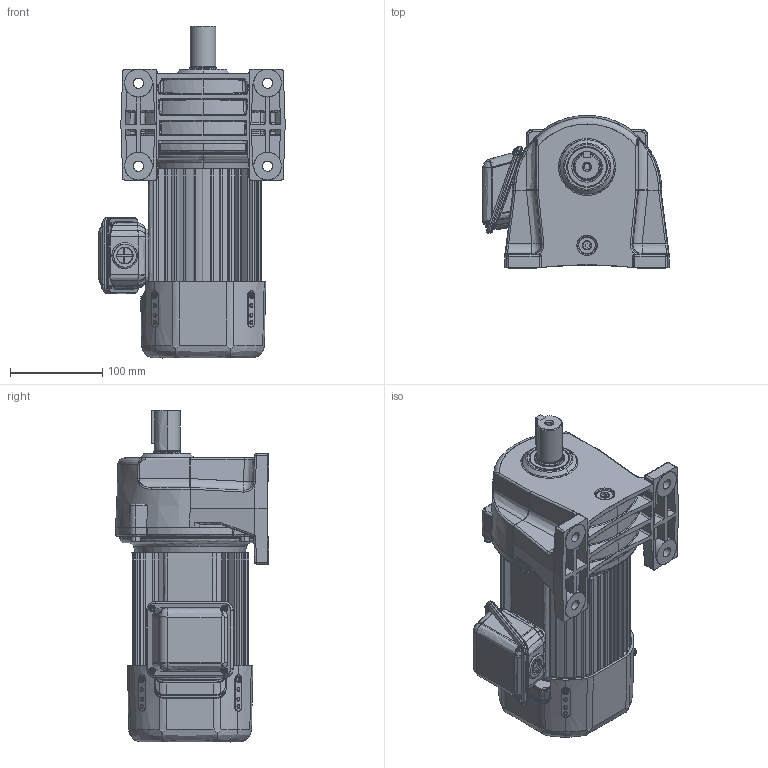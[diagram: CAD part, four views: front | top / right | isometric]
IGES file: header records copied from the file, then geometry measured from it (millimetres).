
Start section: SolidWorks IGES file using analytic representation for surfaces
Global section: file name: \\100.100.100.8\1_共有作業フォルダ\1-5_３Ｄデータ\solidworks\personal-folder\H.Nagayama\SGP1外形\P1(3D)\igs\TMLB2-04-(30~80).IGS; native system: SolidWorks 2018; preprocessor: SolidWorks 2018; author: sigma-giken; date: 200508.144414; units: millimetre
Bounding box: 202.09 x 166 x 360 mm (x, y, z)
Surface area: 479735.1 mm2 (no closed solid volume)
Topology: 0 solids, 0 shells, 1883 faces, 23971 edges, 23942 vertices
Faces by surface type: bspline 998, revolution 885
